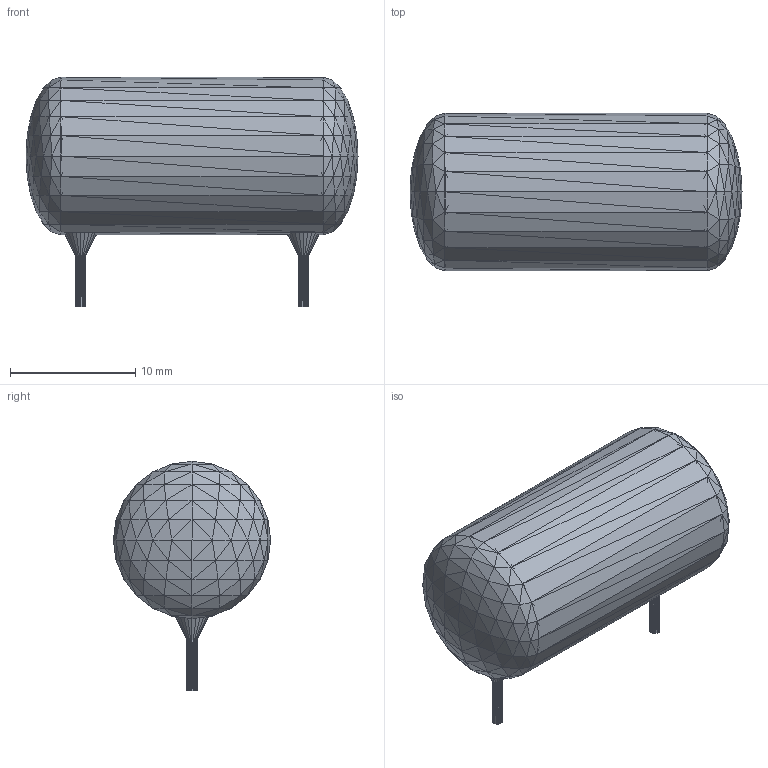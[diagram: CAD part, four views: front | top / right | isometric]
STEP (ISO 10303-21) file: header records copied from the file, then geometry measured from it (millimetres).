
FILE_DESCRIPTION(('HOOPS Exchange Step'),'2;1');
FILE_NAME('***.stp');
FILE_SCHEMA( ('AP242_MANAGED_MODEL_BASED_3D_ENGINEERING_MIM_LF {1 0 10303 442 1 1 4 }') );
Length unit declared in the file: inch
Products named in the file (8): CAPORGMDLGNF_2; CAPORGMDLGNF_3; CAPORGMDLGNF_4; CAPORGMDLGNF_5; CAPORGMDLGNF_6; CAPORGMDLGNF_7; CAPORGMDLGNF_8; CAPORGMDLGNF
Assembly tree (7 placements, depth 2):
  CAPORGMDLGNF
    CAPORGMDLGNF_2
    CAPORGMDLGNF_3
    CAPORGMDLGNF_4
    CAPORGMDLGNF_5
    CAPORGMDLGNF_6
    CAPORGMDLGNF_7
    CAPORGMDLGNF_8
Bounding box: 26.54 x 12.57 x 18.33 mm (x, y, z)
Surface area: 3558.5 mm2 (no closed solid volume)
Topology: 0 solids, 1920 shells, 1920 faces, 1440 edges, 494 vertices
Faces by surface type: plane 1920
Entity records: 29644 total; most frequent: ORIENTED_EDGE 5760, DIRECTION 5312, CARTESIAN_POINT 3870, AXIS2_PLACEMENT_3D 1936, PLANE 1920, EDGE_LOOP 1920, FACE_BOUND 1920, ADVANCED_FACE 1920
